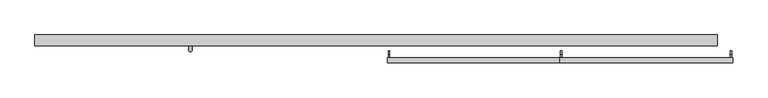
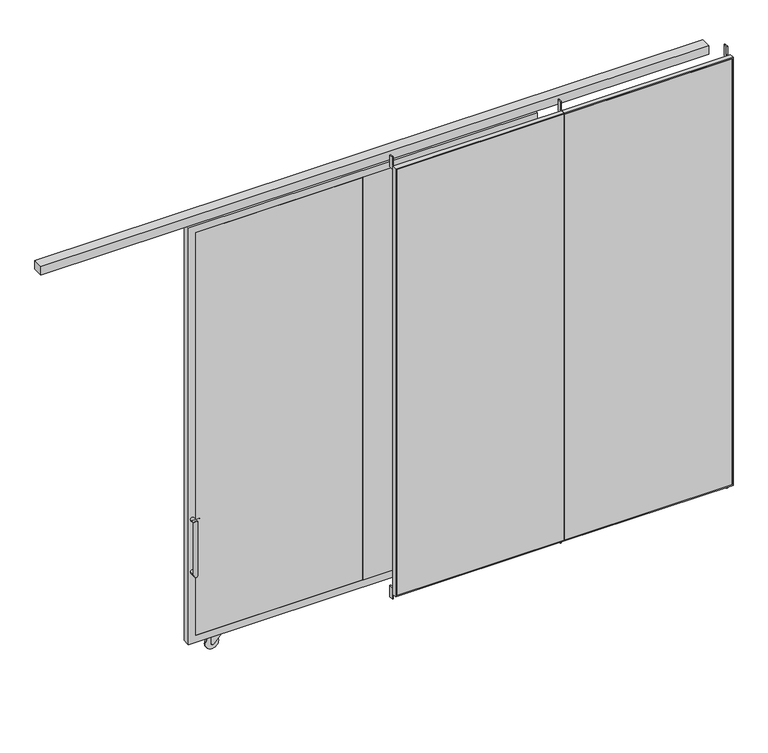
"""IFC4 building model written with IfcOpenShell, lengths in millimetres: furniture geometry, H05 Protección 4 módulos Corredizo lateral : H05 Protección 4 módulos Corredizo lateral 450x315."""

import ifcopenshell
import ifcopenshell.guid

model = None  # the IFC model being written
_history = None  # IfcOwnerHistory: only IFC2X3 demands one
_inside = {}  # id of a spatial element -> (the spatial element, [elements in it])
_under = {}  # id of a project, library or spatial element -> (it, [spatial elements below it])
_declared = {}  # id of a project -> (the project, [libraries it declares])
_typed = {}  # id of a type object -> (the type object, [elements of that type])
_made_of = {}  # id of a material, layer set ... -> (it, [elements and type objects made of it])


def new_model(schema):
    """Start an empty IFC model of exactly this schema.

    Asked for "IFC4X3", IfcOpenShell would pick the latest addendum, in which some entities
    have other attributes; the version numbers below select the first issue.
    IFC2X3 requires an IfcOwnerHistory on every rooted entity: one is made here for all.
    """
    global model, _history
    if schema == "IFC4X3":
        model = ifcopenshell.file(schema_version=(4, 3, 0, 0))
    else:
        model = ifcopenshell.file(schema=schema)
    _inside.clear()
    _under.clear()
    _declared.clear()
    _typed.clear()
    _made_of.clear()
    _history = None
    if model.schema == "IFC2X3":
        org = make("IfcOrganization", Name="unknown")
        user = make(
            "IfcPersonAndOrganization",
            ThePerson=make("IfcPerson", FamilyName="unknown"),
            TheOrganization=org,
        )
        app = make(
            "IfcApplication",
            ApplicationDeveloper=org,
            Version="unknown",
            ApplicationFullName="unknown",
            ApplicationIdentifier="unknown",
        )
        _history = make(
            "IfcOwnerHistory",
            OwningUser=user,
            OwningApplication=app,
            ChangeAction="ADDED",
            CreationDate=0,
        )
    return model


def make(cls, **values):
    """One entity of the class cls with the attributes given. An attribute that is None is left unset."""
    return model.create_entity(
        cls, **{name: value for name, value in values.items() if value is not None}
    )


def rooted(cls, **values):
    """An entity with a GlobalId (a new one), such as an element, a storey or a relation."""
    return make(cls, GlobalId=ifcopenshell.guid.new(), OwnerHistory=_history, **values)


def si_unit(unit_type, name, prefix=None):
    """IfcSIUnit, for example si_unit("LENGTHUNIT", "METRE", prefix="MILLI")."""
    return make("IfcSIUnit", UnitType=unit_type, Prefix=prefix, Name=name)


def assignment(units):
    """IfcUnitAssignment: the units of a project."""
    return None if units is None else make("IfcUnitAssignment", Units=units)


def point(xyz):
    """IfcCartesianPoint."""
    return None if xyz is None else make("IfcCartesianPoint", Coordinates=xyz)


def direction(xyz):
    """IfcDirection."""
    return None if xyz is None else make("IfcDirection", DirectionRatios=xyz)


def frame(location, z_axis=None, x_axis=None):
    """IfcAxis2Placement3D, a coordinate frame: its origin and axes. An axis left out is left unset."""
    return make(
        "IfcAxis2Placement3D",
        Location=point(location),
        Axis=direction(z_axis),
        RefDirection=direction(x_axis),
    )


def frame_2d(location, x_axis=None):
    """IfcAxis2Placement2D, a coordinate frame in the plane: its origin and x axis."""
    return make(
        "IfcAxis2Placement2D", Location=point(location), RefDirection=direction(x_axis)
    )


def origin():
    """The frame at (0, 0, 0) with its axes left unset."""
    return frame((0.0, 0.0, 0.0))


def place(relative_to, where):
    """IfcLocalPlacement: puts the frame where relative to a parent placement (None: the world)."""
    return make(
        "IfcLocalPlacement", PlacementRelTo=relative_to, RelativePlacement=where
    )


def context(
    kind, dimensions, precision=None, world=None, true_north=None, identifier=None
):
    """IfcGeometricRepresentationContext, for example the 3D "Model" context."""
    return make(
        "IfcGeometricRepresentationContext",
        ContextIdentifier=identifier,
        ContextType=kind,
        CoordinateSpaceDimension=dimensions,
        Precision=precision,
        WorldCoordinateSystem=world,
        TrueNorth=true_north,
    )


def project(units=None, contexts=None):
    """IfcProject with its units and contexts."""
    return rooted(
        "IfcProject",
        Name="project",
        RepresentationContexts=contexts,
        UnitsInContext=assignment(units),
    )


def spatial(cls, under=None, at=None, **own):
    """A site, building, storey or space (cls), placed at a placement, below another one or the project."""
    s = rooted(cls, ObjectPlacement=at, **own)
    if under is not None:
        _under.setdefault(under.id(), (under, []))[1].append(s)
    return s


def polyline(points):
    """IfcPolyline through the points."""
    return make("IfcPolyline", Points=[point(p) for p in points])


def circle_curve(where, radius):
    """IfcCircle in the frame where."""
    return make("IfcCircle", Position=where, Radius=radius)


def ellipse_curve(where, semi_axis1, semi_axis2):
    """IfcEllipse in the frame where."""
    return make(
        "IfcEllipse", Position=where, SemiAxis1=semi_axis1, SemiAxis2=semi_axis2
    )


def trimmed(basis, trim1, trim2, sense, master):
    """IfcTrimmedCurve: the piece of a basis curve between two trims."""
    return make(
        "IfcTrimmedCurve",
        BasisCurve=basis,
        Trim1=trim1,
        Trim2=trim2,
        SenseAgreement=sense,
        MasterRepresentation=master,
    )


def segment(curve, same_sense, transition):
    """IfcCompositeCurveSegment."""
    return make(
        "IfcCompositeCurveSegment",
        Transition=transition,
        SameSense=same_sense,
        ParentCurve=curve,
    )


def composite_curve(segments, self_intersect=None):
    """IfcCompositeCurve: segments joined end to end."""
    return make("IfcCompositeCurve", Segments=segments, SelfIntersect=self_intersect)


def outline(outer, holes=None, kind="AREA"):
    """IfcArbitraryClosedProfileDef: a profile drawn as a closed curve; with holes, ...WithVoids."""
    if holes is None:
        return make("IfcArbitraryClosedProfileDef", ProfileType=kind, OuterCurve=outer)
    return make(
        "IfcArbitraryProfileDefWithVoids",
        ProfileType=kind,
        OuterCurve=outer,
        InnerCurves=holes,
    )


def extrude(swept, where, along, depth):
    """IfcExtrudedAreaSolid: the profile swept, set in the frame where, extruded along a direction by depth."""
    return make(
        "IfcExtrudedAreaSolid",
        SweptArea=swept,
        Position=where,
        ExtrudedDirection=direction(along),
        Depth=depth,
    )


def shape(context_of_items, identifier, shape_type, items):
    """IfcShapeRepresentation: the items that make up one representation, for example the "Body"."""
    return make(
        "IfcShapeRepresentation",
        ContextOfItems=context_of_items,
        RepresentationIdentifier=identifier,
        RepresentationType=shape_type,
        Items=items,
    )


def source(mapping_origin, context_of_items, identifier, shape_type, items):
    """IfcRepresentationMap: a shape defined once, which mapped items show again and again."""
    return make(
        "IfcRepresentationMap",
        MappingOrigin=mapping_origin,
        MappedRepresentation=shape(context_of_items, identifier, shape_type, items),
    )


def transform(
    local_origin,
    x_axis=None,
    y_axis=None,
    z_axis=None,
    scale=None,
    scale2=None,
    scale3=None,
    uniform=True,
):
    """IfcCartesianTransformationOperator3D, or its non-uniform kind. x_axis, y_axis, z_axis: its Axis1, 2, 3."""
    if uniform:
        return make(
            "IfcCartesianTransformationOperator3D",
            Axis1=direction(x_axis),
            Axis2=direction(y_axis),
            LocalOrigin=point(local_origin),
            Scale=scale,
            Axis3=direction(z_axis),
        )
    return make(
        "IfcCartesianTransformationOperator3DnonUniform",
        Axis1=direction(x_axis),
        Axis2=direction(y_axis),
        LocalOrigin=point(local_origin),
        Scale=scale,
        Axis3=direction(z_axis),
        Scale2=scale2,
        Scale3=scale3,
    )


def mapped(mapping_source, mapping_target):
    """IfcMappedItem: shows the shape of a source again, moved by a transform."""
    return make(
        "IfcMappedItem", MappingSource=mapping_source, MappingTarget=mapping_target
    )


def made_of(thing, what):
    """Note that an element or type object is made of a material, layer set ...; save() writes the relation."""
    if what is not None:
        _made_of.setdefault(what.id(), (what, []))[1].append(thing)
    return thing


def element(
    cls,
    number,
    at=None,
    inside=None,
    cuts=None,
    type_object=None,
    material=None,
    context=None,
    identifier="Body",
    shape_type=None,
    held_by="IfcProductDefinitionShape",
    body=None,
    shapes=None,
    **own,
):
    """One element of the class cls, such as IfcWall. Its Tag is "e" and its number.

    at: its placement. inside: the storey or other place that contains it. cuts: it is an
    opening in that element (IfcRelVoidsElement). A single representation is given by context,
    identifier, shape_type and body (its items); several are given by shapes. held_by: the class
    of the entity that holds the representations. save() writes the other relations.
    """
    e = rooted(cls, Tag="e%d" % number, ObjectPlacement=at, **own)
    if body is not None:
        shapes = [shape(context, identifier, shape_type, body)]
    if shapes is not None:
        e.Representation = make(held_by, Representations=shapes)
    if inside is not None:
        _inside.setdefault(inside.id(), (inside, []))[1].append(e)
    if cuts is not None:
        rooted(
            "IfcRelVoidsElement", RelatingBuildingElement=cuts, RelatedOpeningElement=e
        )
    if type_object is not None:
        _typed.setdefault(type_object.id(), (type_object, []))[1].append(e)
    return made_of(e, material)


def aggregate(whole, parts):
    """IfcRelAggregates: a whole, such as a stair, and the parts it consists of."""
    return rooted("IfcRelAggregates", RelatingObject=whole, RelatedObjects=parts)


def save(model, path):
    """Write the relations noted so far, then the file.

    IfcRelAggregates (storeys below a building ...), IfcRelContainedInSpatialStructure (elements
    in a storey), IfcRelDefinesByType, IfcRelAssociatesMaterial and IfcRelDeclares: one each for
    every whole, place, type object, material and project.
    """
    for whole, parts in _under.values():
        aggregate(whole, parts)
    for where, things in _inside.values():
        rooted(
            "IfcRelContainedInSpatialStructure",
            RelatedElements=things,
            RelatingStructure=where,
        )
    for kind, things in _typed.values():
        rooted("IfcRelDefinesByType", RelatedObjects=things, RelatingType=kind)
    for what, things in _made_of.values():
        rooted("IfcRelAssociatesMaterial", RelatedObjects=things, RelatingMaterial=what)
    for by, libraries in _declared.values():
        rooted("IfcRelDeclares", RelatingContext=by, RelatedDefinitions=libraries)
    model.write(path)


def plane_surface(at):
    """IfcPlane: the flat surface through the origin of the frame at, square to its z axis."""
    return make("IfcPlane", Position=at)


def cylinder_surface(at, radius):
    """IfcCylindricalSurface: all points at the distance radius from the z axis of the frame at."""
    return make("IfcCylindricalSurface", Position=at, Radius=radius)


def revolved_surface(curve, axis_point, axis_direction):
    """IfcSurfaceOfRevolution: the curve turned about the line through axis_point along axis_direction."""
    return make(
        "IfcSurfaceOfRevolution",
        SweptCurve=make("IfcArbitraryOpenProfileDef", ProfileType="CURVE", Curve=curve),
        AxisPosition=make("IfcAxis1Placement", Location=point(axis_point), Axis=direction(axis_direction)),
    )


def advanced_brep(points, edges, surfaces, faces):
    """IfcAdvancedBrep: a solid bounded by faces that lie on surfaces and meet in shared edges.

    An edge is (start, end): straight between two places in points (the first is 0);
    or (start, end, curve); or (start, end, curve, False) where it runs against its curve.
    A face is (place in surfaces, loops), or (place, loops, False) where it looks against
    its surface's normal. A loop lists edges by number (the first is 1), with a minus sign
    where the edge is run from its end to its start. The first loop is the outer one.
    """
    corners = [point(p) for p in points]
    vertices = [make("IfcVertexPoint", VertexGeometry=c) for c in corners]
    made = []
    for start, end, *more in edges:
        made.append(
            make(
                "IfcEdgeCurve",
                EdgeStart=vertices[start],
                EdgeEnd=vertices[end],
                EdgeGeometry=more[0] if more else make("IfcPolyline", Points=[corners[start], corners[end]]),
                SameSense=more[1] if len(more) > 1 else True,
            )
        )
    hull = []
    for where, loops, *sense in faces:
        bounds = []
        for j, loop in enumerate(loops):
            ring = [make("IfcOrientedEdge", EdgeElement=made[abs(k) - 1], Orientation=k > 0) for k in loop]
            bounds.append(
                make(
                    "IfcFaceOuterBound" if j == 0 else "IfcFaceBound",
                    Bound=make("IfcEdgeLoop", EdgeList=ring),
                    Orientation=True,
                )
            )
        hull.append(make("IfcAdvancedFace", Bounds=bounds, FaceSurface=surfaces[where], SameSense=sense[0] if sense else True))
    return make("IfcAdvancedBrep", Outer=make("IfcClosedShell", CfsFaces=hull))


def furniture_c9469870(model_context):
    return source(origin(), model_context, "Body", "SolidModel", [
        advanced_brep(
        [(-1200.0, 136.0, 949.0), (-1200.0, 124.0, 949.0), (-1158.0, 124.0, 949.0), (-1158.0, 136.0, 949.0), (-1144.0, 124.0, 935.0), (-1144.0, 124.0, 775.0), (-1144.0, 136.0, 775.0), (-1144.0, 136.0, 935.0), (-1200.0, 136.0, 761.0), (-1200.0, 124.0, 761.0), (-1158.0, 124.0, 761.0), (-1158.0, 136.0, 761.0)],
        [
            (0, 1, circle_curve(frame((-1200.0, 130.0, 949.0), z_axis=(-1.0, 0.0, 0.0), x_axis=(0.0, -1.0, 0.0)), 6.0)),
            (1, 0, circle_curve(frame((-1200.0, 130.0, 949.0), z_axis=(-1.0, 0.0, 0.0), x_axis=(0.0, -1.0, 0.0)), 6.0)),
            (1, 2),
            (2, 3, circle_curve(frame((-1158.0, 130.0, 949.0), z_axis=(-1.0, 0.0, 0.0), x_axis=(0.0, -1.0, 0.0)), 6.0)),
            (3, 0),
            (3, 2, circle_curve(frame((-1158.0, 130.0, 949.0), z_axis=(-1.0, 0.0, 0.0), x_axis=(0.0, -1.0, 0.0)), 6.0)),
            (4, 5),
            (5, 6, circle_curve(frame((-1144.0, 130.0, 775.0), z_axis=(0.0, 0.0, 1.0), x_axis=(0.0, -1.0, 0.0)), 6.0)),
            (6, 7),
            (7, 4, circle_curve(frame((-1144.0, 130.0, 935.0), z_axis=(0.0, 0.0, -1.0), x_axis=(0.0, -1.0, 0.0)), 6.0)),
            (6, 5, circle_curve(frame((-1144.0, 130.0, 775.0), z_axis=(0.0, 0.0, 1.0), x_axis=(0.0, -1.0, 0.0)), 6.0)),
            (4, 7, circle_curve(frame((-1144.0, 130.0, 935.0), z_axis=(0.0, 0.0, -1.0), x_axis=(0.0, -1.0, 0.0)), 6.0)),
            (8, 9, circle_curve(frame((-1200.0, 130.0, 761.0), z_axis=(-1.0, 0.0, 0.0), x_axis=(0.0, -1.0, 0.0)), 6.0)),
            (9, 8, circle_curve(frame((-1200.0, 130.0, 761.0), z_axis=(-1.0, 0.0, 0.0), x_axis=(0.0, -1.0, 0.0)), 6.0)),
            (10, 9),
            (8, 11),
            (11, 10, circle_curve(frame((-1158.0, 130.0, 761.0), z_axis=(-1.0, 0.0, 0.0), x_axis=(0.0, -1.0, 0.0)), 6.0)),
            (10, 11, circle_curve(frame((-1158.0, 130.0, 761.0), z_axis=(-1.0, 0.0, 0.0), x_axis=(0.0, -1.0, 0.0)), 6.0)),
            (7, 3, circle_curve(frame((-1158.0, 136.0, 935.0), z_axis=(0.0, -1.0, 0.0), x_axis=(0.0, 0.0, 1.0)), 14.0)),
            (2, 4, circle_curve(frame((-1158.0, 124.0, 935.0), z_axis=(0.0, 1.0, 0.0), x_axis=(0.0, 0.0, 1.0)), 14.0)),
            (11, 6, circle_curve(frame((-1158.0, 136.0, 775.0), z_axis=(0.0, -1.0, 0.0), x_axis=(1.0, 0.0, 0.0)), 14.0)),
            (5, 10, circle_curve(frame((-1158.0, 124.0, 775.0), z_axis=(0.0, 1.0, 0.0), x_axis=(1.0, 0.0, 0.0)), 14.0)),
        ],
        [
            plane_surface(frame((-1200.0, 130.0, 955.0), z_axis=(-1.0, 0.0, 0.0), x_axis=(0.0, -1.0, 0.0))),
            cylinder_surface(frame((-1200.0, 130.0, 949.0), z_axis=(-1.0, 0.0, 0.0), x_axis=(0.0, -1.0, 0.0)), 6.0),
            cylinder_surface(frame((-1144.0, 130.0, 935.0), z_axis=(0.0, 0.0, 1.0), x_axis=(0.0, -1.0, 0.0)), 6.0),
            plane_surface(frame((-1200.0, 130.0, 755.0), z_axis=(-1.0, 0.0, 0.0), x_axis=(0.0, -1.0, 0.0))),
            cylinder_surface(frame((-1158.0, 130.0, 761.0), z_axis=(1.0, 0.0, 0.0), x_axis=(0.0, -1.0, 0.0)), 6.0),
            revolved_surface(trimmed(ellipse_curve(frame((-1158.0, 130.0, 949.0), z_axis=(1.0, 0.0, 0.0), x_axis=(0.0, -1.0, 0.0)), 6.0, 6.0), [point((-1158.0, 136.0, 949.0))], [point((-1158.0, 124.0, 949.0))], True, "CARTESIAN"), (-1158.0, 130.0, 935.0), (0.0, -1.0, 0.0)),
            revolved_surface(trimmed(ellipse_curve(frame((-1158.0, 130.0, 949.0), z_axis=(1.0, 0.0, 0.0), x_axis=(0.0, -1.0, 0.0)), 6.0, 6.0), [point((-1158.0, 124.0, 949.0))], [point((-1158.0, 136.0, 949.0))], True, "CARTESIAN"), (-1158.0, 130.0, 935.0), (0.0, -1.0, 0.0)),
            revolved_surface(trimmed(ellipse_curve(frame((-1144.0, 130.0, 775.0), z_axis=(0.0, 0.0, -1.0), x_axis=(0.0, -1.0, 0.0)), 6.0, 6.0), [point((-1144.0, 136.0, 775.0))], [point((-1144.0, 124.0, 775.0))], True, "CARTESIAN"), (-1158.0, 130.0, 775.0), (0.0, -1.0, 0.0)),
            revolved_surface(trimmed(ellipse_curve(frame((-1144.0, 130.0, 775.0), z_axis=(0.0, 0.0, -1.0), x_axis=(0.0, -1.0, 0.0)), 6.0, 6.0), [point((-1144.0, 124.0, 775.0))], [point((-1144.0, 136.0, 775.0))], True, "CARTESIAN"), (-1158.0, 130.0, 775.0), (0.0, -1.0, 0.0)),
        ],
        [
            (0, [[1, 2]]),
            (1, [[3, 4, 5, -2]]),
            (1, [[-5, 6, -3, -1]]),
            (2, [[7, 8, 9, 10]]),
            (2, [[-9, 11, -7, 12]]),
            (3, [[13, 14]]),
            (4, [[15, -13, 16, 17]]),
            (4, [[-16, -14, -15, 18]]),
            (5, [[-10, 19, -4, 20]]),
            (6, [[-12, -20, -6, -19]]),
            (7, [[-17, 21, -8, 22]]),
            (8, [[-18, -22, -11, -21]]),
        ],
    ),
        advanced_brep(
        [(-1237.7, 90.0, 987.0), (-1212.3, 90.0, 987.0), (-1237.7, 52.7, 987.0), (-1212.3, 52.7, 987.0), (-1237.7, 52.7, 612.4), (-1212.3, 52.7, 612.4), (-1237.7, 90.0, 612.4), (-1212.3, 90.0, 612.4)],
        [
            (0, 1, circle_curve(frame((-1225.0, 90.0, 987.0), z_axis=(0.0, 1.0, 0.0), x_axis=(1.0, 0.0, 0.0)), 12.7)),
            (1, 0, circle_curve(frame((-1225.0, 90.0, 987.0), z_axis=(0.0, 1.0, 0.0), x_axis=(1.0, 0.0, 0.0)), 12.7)),
            (0, 2),
            (2, 3, ellipse_curve(frame((-1225.0, 52.7, 987.0), z_axis=(0.0, 0.7071067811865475, 0.7071067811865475), x_axis=(0.0, 0.7071067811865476, -0.7071067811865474)), 17.9605122, 12.7)),
            (3, 1),
            (3, 2, ellipse_curve(frame((-1225.0, 52.7, 987.0), z_axis=(0.0, 0.7071067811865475, 0.7071067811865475), x_axis=(0.0, 0.7071067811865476, -0.7071067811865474)), 17.9605122, 12.7)),
            (2, 4),
            (4, 5, ellipse_curve(frame((-1225.0, 52.7, 612.4), z_axis=(0.0, -0.7071067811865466, 0.7071067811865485), x_axis=(0.0, 0.7071067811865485, 0.7071067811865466)), 17.9605122, 12.7)),
            (5, 3),
            (5, 4, ellipse_curve(frame((-1225.0, 52.7, 612.4), z_axis=(0.0, -0.7071067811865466, 0.7071067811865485), x_axis=(0.0, 0.7071067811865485, 0.7071067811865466)), 17.9605122, 12.7)),
            (6, 7, circle_curve(frame((-1225.0, 90.0, 612.4), z_axis=(0.0, 1.0, 0.0), x_axis=(1.0, 0.0, 0.0)), 12.7)),
            (7, 6, circle_curve(frame((-1225.0, 90.0, 612.4), z_axis=(0.0, 1.0, 0.0), x_axis=(1.0, 0.0, 0.0)), 12.7)),
            (4, 6),
            (7, 5),
        ],
        [
            plane_surface(frame((-1225.0, 90.0, 999.7), z_axis=(0.0, 1.0, 0.0), x_axis=(1.0, 0.0, 0.0))),
            cylinder_surface(frame((-1225.0, 90.0, 987.0), z_axis=(0.0, 1.0, 0.0), x_axis=(1.0, 0.0, 0.0)), 12.7),
            cylinder_surface(frame((-1225.0, 52.7, 999.7), z_axis=(0.0, 0.0, 1.0), x_axis=(1.0, 0.0, 0.0)), 12.7),
            plane_surface(frame((-1225.0, 90.0, 599.7), z_axis=(0.0, 1.0, 0.0), x_axis=(1.0, 0.0, 0.0))),
            cylinder_surface(frame((-1225.0, 40.0, 612.4), z_axis=(0.0, -1.0, 0.0), x_axis=(1.0, 0.0, 0.0)), 12.7),
        ],
        [
            (0, [[1, 2]]),
            (1, [[-1, 3, 4, 5]]),
            (1, [[-2, -5, 6, -3]]),
            (2, [[-4, 7, 8, 9]]),
            (2, [[-6, -9, 10, -7]]),
            (3, [[11, 12]]),
            (4, [[-8, 13, -12, 14]]),
            (4, [[-10, -14, -11, -13]]),
        ],
    ),
        extrude(outline(polyline([(990.0, 127.0), (990.0, 103.0), (920.0, 103.0), (920.0, 127.0), (990.0, 127.0)])), frame((0.0, 0.0, 102.0), z_axis=(0.0, 0.0, 1.0), x_axis=(1.0, 0.0, 0.0)), (0.0, 0.0, 1.0), 3.0),
        extrude(outline(composite_curve([segment(polyline([(105.0, 920.0), (45.0, 920.0)]), True, "CONTINUOUS"), segment(trimmed(circle_curve(frame_2d((45.0, 930.0)), 10.0), [point((45.0, 920.0))], [point((38.2006885, 937.3327596))], False, "CARTESIAN"), True, "CONTINUOUS"), segment(polyline([(38.2006885, 937.3327596), (95.0, 990.0), (105.0, 990.0), (105.0, 920.0)]), True, "CONTINUOUS")], self_intersect=False)), frame((0.0, 127.0, 0.0), z_axis=(0.0, 1.0, 0.0), x_axis=(0.0, 0.0, 1.0)), (0.0, 0.0, 1.0), 3.0),
        extrude(outline(composite_curve([segment(polyline([(105.0, 920.0), (45.0, 920.0)]), True, "CONTINUOUS"), segment(trimmed(circle_curve(frame_2d((45.0, 930.0)), 10.0), [point((45.0, 920.0))], [point((38.2006885, 937.3327596))], False, "CARTESIAN"), True, "CONTINUOUS"), segment(polyline([(38.2006885, 937.3327596), (95.0, 990.0), (105.0, 990.0), (105.0, 920.0)]), True, "CONTINUOUS")], self_intersect=False)), frame((0.0, 100.0, 0.0), z_axis=(0.0, 1.0, 0.0), x_axis=(0.0, 0.0, 1.0)), (0.0, 0.0, 1.0), 3.0),
        extrude(outline(composite_curve([segment(trimmed(circle_curve(frame_2d((45.0, 930.0)), 45.0), [point((45.0, 885.0))], [point((45.0, 975.0))], False, "CARTESIAN"), True, "CONTINUOUS"), segment(trimmed(circle_curve(frame_2d((45.0, 930.0)), 45.0), [point((45.0, 975.0))], [point((45.0, 885.0))], False, "CARTESIAN"), True, "CONTINUOUS")], self_intersect=False)), frame((0.0, 110.0, 0.0), z_axis=(0.0, 1.0, 0.0), x_axis=(0.0, 0.0, 1.0)), (0.0, 0.0, 1.0), 10.0),
        extrude(outline(polyline([(-1020.0, 127.0), (-1020.0, 103.0), (-1090.0, 103.0), (-1090.0, 127.0), (-1020.0, 127.0)])), frame((0.0, 0.0, 102.0), z_axis=(0.0, 0.0, 1.0), x_axis=(1.0, 0.0, 0.0)), (0.0, 0.0, 1.0), 3.0),
        extrude(outline(composite_curve([segment(polyline([(105.0, -1090.0), (45.0, -1090.0)]), True, "CONTINUOUS"), segment(trimmed(circle_curve(frame_2d((45.0, -1080.0)), 10.0), [point((45.0, -1090.0))], [point((38.2006885, -1072.6672404))], False, "CARTESIAN"), True, "CONTINUOUS"), segment(polyline([(38.2006885, -1072.6672404), (95.0, -1020.0), (105.0, -1020.0), (105.0, -1090.0)]), True, "CONTINUOUS")], self_intersect=False)), frame((0.0, 127.0, 0.0), z_axis=(0.0, 1.0, 0.0), x_axis=(0.0, 0.0, 1.0)), (0.0, 0.0, 1.0), 3.0),
        extrude(outline(composite_curve([segment(polyline([(105.0, -1090.0), (45.0, -1090.0)]), True, "CONTINUOUS"), segment(trimmed(circle_curve(frame_2d((45.0, -1080.0)), 10.0), [point((45.0, -1090.0))], [point((38.2006885, -1072.6672404))], False, "CARTESIAN"), True, "CONTINUOUS"), segment(polyline([(38.2006885, -1072.6672404), (95.0, -1020.0), (105.0, -1020.0), (105.0, -1090.0)]), True, "CONTINUOUS")], self_intersect=False)), frame((0.0, 100.0, 0.0), z_axis=(0.0, 1.0, 0.0), x_axis=(0.0, 0.0, 1.0)), (0.0, 0.0, 1.0), 3.0),
        extrude(outline(composite_curve([segment(trimmed(circle_curve(frame_2d((45.0, -1080.0)), 45.0), [point((45.0, -1125.0))], [point((45.0, -1035.0))], False, "CARTESIAN"), True, "CONTINUOUS"), segment(trimmed(circle_curve(frame_2d((45.0, -1080.0)), 45.0), [point((45.0, -1035.0))], [point((45.0, -1125.0))], False, "CARTESIAN"), True, "CONTINUOUS")], self_intersect=False)), frame((0.0, 110.0, 0.0), z_axis=(0.0, 1.0, 0.0), x_axis=(0.0, 0.0, 1.0)), (0.0, 0.0, 1.0), 10.0),
        extrude(outline(polyline([(1050.0, 90.0), (-71.5, 90.0), (-71.5, 93.0), (1050.0, 93.0), (1050.0, 90.0)])), frame((0.0, 0.0, 150.0), z_axis=(0.0, 0.0, 1.0), x_axis=(1.0, 0.0, 0.0)), (0.0, 0.0, 1.0), 2870.0),
        extrude(outline(polyline([(-78.5, 90.0), (-1200.0, 90.0), (-1200.0, 93.0), (-78.5, 93.0), (-78.5, 90.0)])), frame((0.0, 0.0, 150.0), z_axis=(0.0, 0.0, 1.0), x_axis=(1.0, 0.0, 0.0)), (0.0, 0.0, 1.0), 2870.0),
        extrude(outline(polyline([(-71.5, 90.0), (-75.0, 90.0), (-75.0, 140.0), (-71.5, 140.0), (-71.5, 90.0)])), frame((0.0, 0.0, 150.0), z_axis=(0.0, 0.0, 1.0), x_axis=(1.0, 0.0, 0.0)), (0.0, 0.0, 1.0), 2870.0),
        extrude(outline(polyline([(-75.0, 90.0), (-78.5, 90.0), (-78.5, 140.0), (-75.0, 140.0), (-75.0, 90.0)])), frame((0.0, 0.0, 150.0), z_axis=(0.0, 0.0, 1.0), x_axis=(1.0, 0.0, 0.0)), (0.0, 0.0, 1.0), 2870.0),
        extrude(outline(polyline([(3070.0, 1100.0), (3070.0, -1250.0), (100.0, -1250.0), (100.0, 1100.0), (3070.0, 1100.0)]), holes=[polyline([(3020.0, 1050.0), (150.0, 1050.0), (150.0, -1200.0), (3020.0, -1200.0), (3020.0, 1050.0)])]), frame((0.0, 90.0, 0.0), z_axis=(0.0, 1.0, 0.0), x_axis=(0.0, 0.0, 1.0)), (0.0, 0.0, 1.0), 50.0),
        extrude(outline(polyline([(2343.0, -32.0), (1216.0, -32.0), (1216.0, -29.0), (2343.0, -29.0), (2343.0, -32.0)])), frame((0.0, 0.0, 57.0), z_axis=(0.0, 0.0, 1.0), x_axis=(1.0, 0.0, 0.0)), (0.0, 0.0, 1.0), 3036.0),
        extrude(outline(polyline([(3100.0, 2350.0), (3100.0, 1212.5), (50.0, 1212.5), (50.0, 2350.0), (3100.0, 2350.0)]), holes=[polyline([(3093.0, 2343.0), (57.0, 2343.0), (57.0, 1216.0), (3093.0, 1216.0), (3093.0, 2343.0)])]), frame((0.0, -32.0, 0.0), z_axis=(0.0, 1.0, 0.0), x_axis=(0.0, 0.0, 1.0)), (0.0, 0.0, 1.0), 32.0),
        extrude(outline(polyline([(1209.0, -32.0), (82.0, -32.0), (82.0, -29.0), (1209.0, -29.0), (1209.0, -32.0)])), frame((0.0, 0.0, 57.0), z_axis=(0.0, 0.0, 1.0), x_axis=(1.0, 0.0, 0.0)), (0.0, 0.0, 1.0), 3036.0),
        extrude(outline(polyline([(3100.0, 1212.5), (3100.0, 75.0), (50.0, 75.0), (50.0, 1212.5), (3100.0, 1212.5)]), holes=[polyline([(3093.0, 1209.0), (57.0, 1209.0), (57.0, 82.0), (3093.0, 82.0), (3093.0, 1209.0)])]), frame((0.0, -32.0, 0.0), z_axis=(0.0, 1.0, 0.0), x_axis=(0.0, 0.0, 1.0)), (0.0, 0.0, 1.0), 32.0),
        extrude(outline(polyline([(46.0, 3068.0), (-29.0, 3068.0), (-29.0, 3093.0), (21.0, 3093.0), (21.0, 3150.0), (46.0, 3150.0), (46.0, 3068.0)])), frame((82.0, 0.0, 0.0), z_axis=(1.0, 0.0, 0.0), x_axis=(0.0, 1.0, 0.0)), (0.0, 0.0, 1.0), 7.0),
        extrude(outline(polyline([(46.0, 3068.0), (-29.0, 3068.0), (-29.0, 3093.0), (21.0, 3093.0), (21.0, 3150.0), (46.0, 3150.0), (46.0, 3068.0)])), frame((2336.0, 0.0, 0.0), z_axis=(1.0, 0.0, 0.0), x_axis=(0.0, 1.0, 0.0)), (0.0, 0.0, 1.0), 7.0),
        extrude(outline(polyline([(46.0, 82.0), (46.0, 0.0), (21.0, 0.0), (21.0, 57.0), (-29.0, 57.0), (-29.0, 82.0), (46.0, 82.0)])), frame((2336.0, 0.0, 0.0), z_axis=(1.0, 0.0, 0.0), x_axis=(0.0, 1.0, 0.0)), (0.0, 0.0, 1.0), 7.0),
        extrude(outline(polyline([(46.0, 82.0), (46.0, 0.0), (21.0, 0.0), (21.0, 57.0), (-29.0, 57.0), (-29.0, 82.0), (46.0, 82.0)])), frame((82.0, 0.0, 0.0), z_axis=(1.0, 0.0, 0.0), x_axis=(0.0, 1.0, 0.0)), (0.0, 0.0, 1.0), 7.0),
        extrude(outline(polyline([(46.0, 3068.0), (-29.0, 3068.0), (-29.0, 3093.0), (21.0, 3093.0), (21.0, 3150.0), (46.0, 3150.0), (46.0, 3068.0)])), frame((1216.0, 0.0, 0.0), z_axis=(1.0, 0.0, 0.0), x_axis=(0.0, 1.0, 0.0)), (0.0, 0.0, 1.0), 7.0),
        extrude(outline(polyline([(46.0, 82.0), (46.0, 0.0), (21.0, 0.0), (21.0, 57.0), (-29.0, 57.0), (-29.0, 82.0), (46.0, 82.0)])), frame((1216.0, 0.0, 0.0), z_axis=(1.0, 0.0, 0.0), x_axis=(0.0, 1.0, 0.0)), (0.0, 0.0, 1.0), 7.0),
        extrude(outline(polyline([(2250.0, 80.0), (-2250.0, 80.0), (-2250.0, 150.0), (2250.0, 150.0), (2250.0, 80.0)])), frame((0.0, 0.0, 3090.0), z_axis=(0.0, 0.0, 1.0), x_axis=(1.0, 0.0, 0.0)), (0.0, 0.0, 1.0), 60.0),
    ])


if __name__ == "__main__":
    model = new_model("IFC4")
    model_context = context("Model", 3, world=origin())
    ifc_project = project(units=[si_unit("LENGTHUNIT", "METRE", prefix="MILLI")], contexts=[model_context])
    site = spatial("IfcSite", under=ifc_project)
    building = spatial("IfcBuilding", under=site)
    placement = place(None, origin())
    furniture_shape = furniture_c9469870(model_context)
    element("IfcFurniture", 1, ObjectType="H05 Protección 4 módulos Corredizo lateral : H05 Protección 4 módulos Corredizo lateral 450x315", at=placement, inside=building, context=model_context, shape_type="MappedRepresentation", body=[
        mapped(furniture_shape, transform((0.0, 0.0, 0.0), x_axis=(1.0, 0.0, 0.0), y_axis=(0.0, 1.0, 0.0), z_axis=(0.0, 0.0, 1.0))),
    ])
    save(model, "model.ifc")
